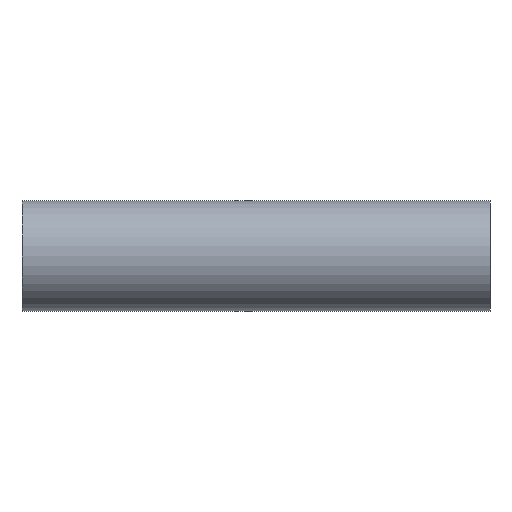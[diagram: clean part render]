
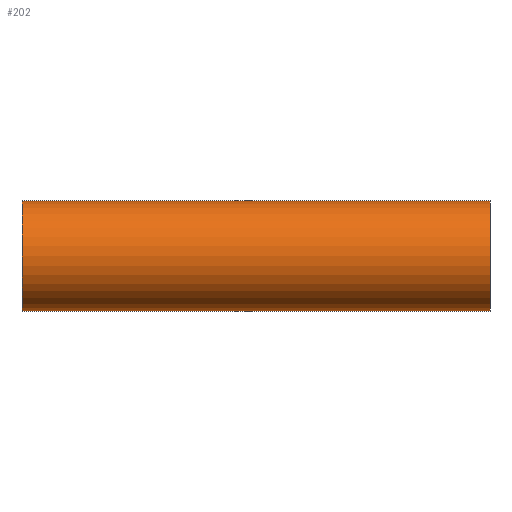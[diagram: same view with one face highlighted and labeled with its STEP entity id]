
A CAD part, front view. The second image highlights one B-rep face of the part: STEP entity #202.
In plain terms, the highlighted cylindrical face has radius 12.7 mm (diameter 25.4 mm), a partial arc.
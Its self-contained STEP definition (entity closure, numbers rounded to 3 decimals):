
#31 = VECTOR ( 'NONE', #434, 1000. ) ;
#47 = EDGE_LOOP ( 'NONE', ( #359, #90, #219, #181 ) ) ;
#50 = DIRECTION ( 'NONE',  ( 0., 0., -1. ) ) ;
#52 = EDGE_CURVE ( 'NONE', #86, #475, #65, .T. ) ;
#53 = LINE ( 'NONE', #129, #255 ) ;
#65 = CIRCLE ( 'NONE', #213, 12.7 ) ;
#75 = CARTESIAN_POINT ( 'NONE',  ( -54., 0., 0. ) ) ;
#78 = DIRECTION ( 'NONE',  ( 1., 0., 0. ) ) ;
#82 = DIRECTION ( 'NONE',  ( 0., 0., -1. ) ) ;
#86 = VERTEX_POINT ( 'NONE', #164 ) ;
#87 = EDGE_CURVE ( 'NONE', #475, #320, #53, .T. ) ;
#90 = ORIENTED_EDGE ( 'NONE', *, *, #52, .T. ) ;
#116 = DIRECTION ( 'NONE',  ( 1., 0., 0. ) ) ;
#118 = FACE_OUTER_BOUND ( 'NONE', #47, .T. ) ;
#129 = CARTESIAN_POINT ( 'NONE',  ( -54., 0., -12.7 ) ) ;
#134 = LINE ( 'NONE', #244, #31 ) ;
#149 = CARTESIAN_POINT ( 'NONE',  ( 54., 0., 12.7 ) ) ;
#152 = EDGE_CURVE ( 'NONE', #86, #451, #134, .T. ) ;
#164 = CARTESIAN_POINT ( 'NONE',  ( -54., 0., 12.7 ) ) ;
#181 = ORIENTED_EDGE ( 'NONE', *, *, #470, .T. ) ;
#202 = ADVANCED_FACE ( 'NONE', ( #118 ), #220, .T. ) ;
#206 = CARTESIAN_POINT ( 'NONE',  ( -54., 0., 0. ) ) ;
#213 = AXIS2_PLACEMENT_3D ( 'NONE', #75, #78, #82 ) ;
#219 = ORIENTED_EDGE ( 'NONE', *, *, #87, .T. ) ;
#220 = CYLINDRICAL_SURFACE ( 'NONE', #281, 12.7 ) ;
#226 = CARTESIAN_POINT ( 'NONE',  ( -54., 0., -12.7 ) ) ;
#243 = DIRECTION ( 'NONE',  ( 1., 0., 0. ) ) ;
#244 = CARTESIAN_POINT ( 'NONE',  ( -54., 0., 12.7 ) ) ;
#255 = VECTOR ( 'NONE', #116, 1000. ) ;
#265 = DIRECTION ( 'NONE',  ( -1., 0., 0. ) ) ;
#266 = DIRECTION ( 'NONE',  ( 0., 0., -1. ) ) ;
#268 = CARTESIAN_POINT ( 'NONE',  ( 54., 0., 0. ) ) ;
#281 = AXIS2_PLACEMENT_3D ( 'NONE', #206, #243, #50 ) ;
#320 = VERTEX_POINT ( 'NONE', #337 ) ;
#337 = CARTESIAN_POINT ( 'NONE',  ( 54., 0., -12.7 ) ) ;
#359 = ORIENTED_EDGE ( 'NONE', *, *, #152, .F. ) ;
#385 = CIRCLE ( 'NONE', #429, 12.7 ) ;
#429 = AXIS2_PLACEMENT_3D ( 'NONE', #268, #265, #266 ) ;
#434 = DIRECTION ( 'NONE',  ( 1., 0., 0. ) ) ;
#451 = VERTEX_POINT ( 'NONE', #149 ) ;
#470 = EDGE_CURVE ( 'NONE', #320, #451, #385, .T. ) ;
#475 = VERTEX_POINT ( 'NONE', #226 ) ;
